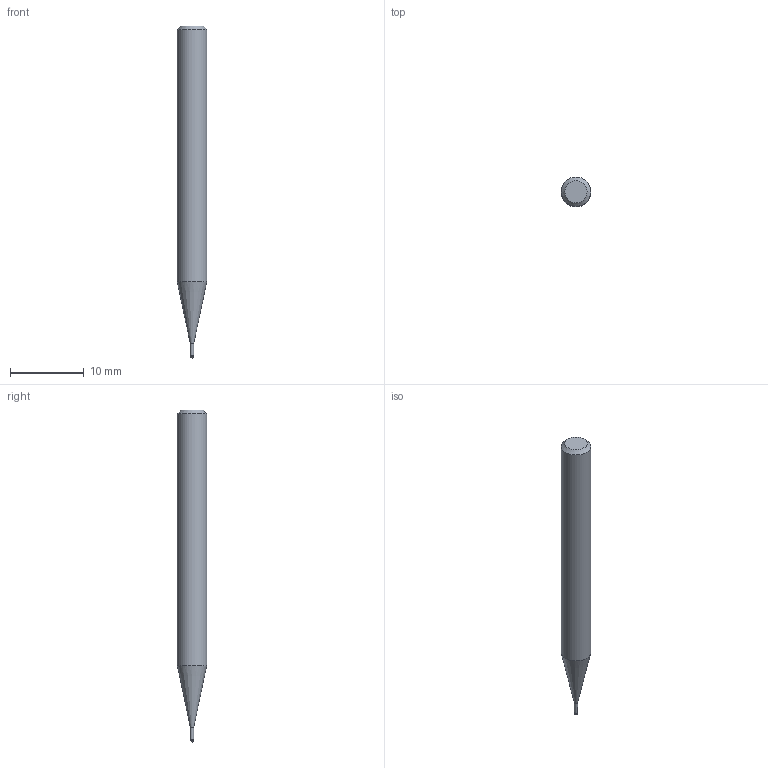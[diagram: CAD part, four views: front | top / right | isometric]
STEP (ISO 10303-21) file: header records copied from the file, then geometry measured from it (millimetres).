
FILE_DESCRIPTION((''),'2;1');
FILE_NAME('C:\Users\nsx150\AppData\Local\Temp\Mastercam 2021\3SYKECWX22\TEMP.step','2021-04-22T10:00:10',(''),(''),'STEP Write','Mastercam 2021 ... CNC Software, Inc.','');
FILE_SCHEMA(('AUTOMOTIVE_DESIGN'));
Length unit declared in the file: millimetre
Products named in the file (1): None
Bounding box: 4 x 4 x 45 mm (x, y, z)
Volume: 474 mm3; surface area: 507.2 mm2
Topology: 2 solids, 2 shells, 9 faces, 14 edges, 8 vertices
Faces by surface type: plane 3, cylinder 3, cone 2, sphere 1
Full cylindrical faces by diameter (mm): 0.46 x1, 0.5 x1, 4 x1
Entity records: 211 total; most frequent: DIRECTION 36, CARTESIAN_POINT 25, AXIS2_PLACEMENT_3D 18, ORIENTED_EDGE 14, EDGE_LOOP 14, STYLED_ITEM 12, ADVANCED_FACE 9, FACE_BOUND 8
